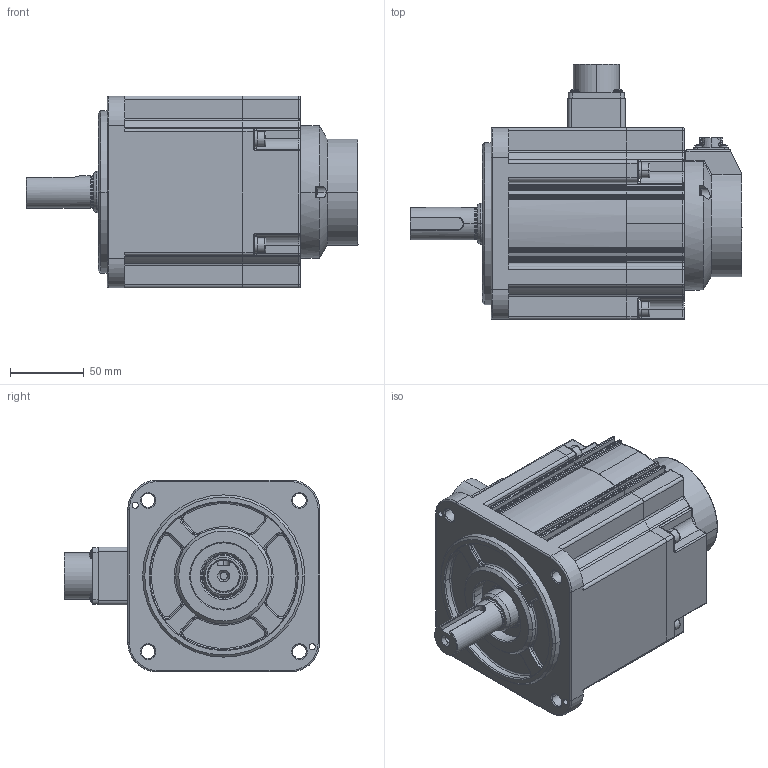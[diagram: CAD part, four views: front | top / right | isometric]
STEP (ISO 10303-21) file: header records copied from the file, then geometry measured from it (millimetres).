
FILE_DESCRIPTION((''),'2;1');
FILE_NAME('130-850W-B','2023-03-31T16:29:04',('ms28071'),(''),'CREO PARAMETRIC BY PTC INC, 2018100','CREO PARAMETRIC BY PTC INC, 2018100','');
FILE_SCHEMA(('CONFIG_CONTROL_DESIGN'));
Length unit declared in the file: millimetre
Products named in the file (1): 130-850W-B
Bounding box: 225 x 173 x 130.01 mm (x, y, z)
Surface area: 146057.1 mm2 (no closed solid volume)
Topology: 0 solids, 46 shells, 968 faces, 2873 edges, 1889 vertices
Faces by surface type: cylinder 447, plane 269, torus 117, cone 64, bspline 45, sphere 26
Entity records: 36864 total; most frequent: CARTESIAN_POINT 11241, DIRECTION 5617, ORIENTED_EDGE 4895, EDGE_CURVE 2835, AXIS2_PLACEMENT_3D 2208, VERTEX_POINT 1889, CIRCLE 1285, VECTOR 1201
